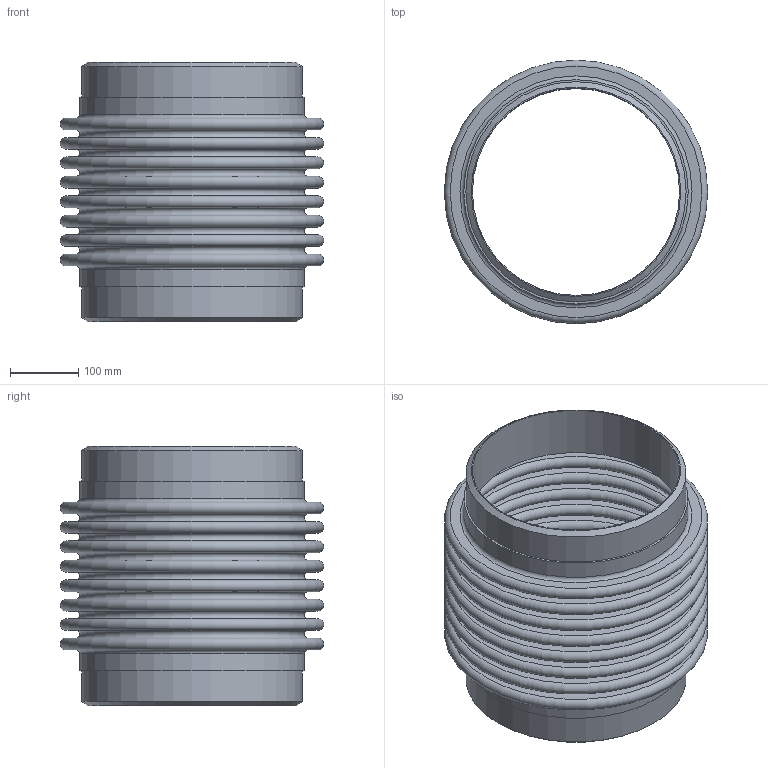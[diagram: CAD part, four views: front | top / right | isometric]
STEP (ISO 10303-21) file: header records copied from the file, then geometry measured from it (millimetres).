
FILE_DESCRIPTION(/* description */ ('EXPANSION JOINT,SINGLE, WELD ENDS,4 INCH NOMINAL'),/* implementation_level */ '2;1');
FILE_NAME(/* name */ 'US-12-300S- WELD-ENDS.stp',/* time_stamp */ '2026-07-28T11:10:50-05:00',/* author */ ('jorgef'),/* organization */ (''),/* preprocessor_version */ 'ST-DEVELOPER v20.1',/* originating_system */ 'Autodesk Inventor 2026',/* authorisation */ '');
FILE_SCHEMA (('AUTOMOTIVE_DESIGN { 1 0 10303 214 3 1 1 }'));
Length unit declared in the file: inch
Products named in the file (3): SINGLE STOCK  BELLOW WELDED ENDS  12- 300 PSIG; STOCK BELLOW - US-12-8-300S; PIPE- 12 -300 PSIG
Assembly tree (3 placements, depth 2):
  SINGLE STOCK  BELLOW WELDED ENDS  12- 300 PSIG
    STOCK BELLOW - US-12-8-300S
    PIPE- 12 -300 PSIG  x2
Bounding box: 387.35 x 387.35 x 381 mm (x, y, z)
Volume: 3552098 mm3; surface area: 1771043.4 mm2
Topology: 5 solids, 5 shells, 86 faces, 132 edges, 89 vertices
Faces by surface type: plane 42, torus 34, cylinder 8, cone 2
Full cylindrical faces by diameter (mm): 304.8 x2, 323.85 x4, 329.946 x2
Entity records: 2033 total; most frequent: DIRECTION 413, CARTESIAN_POINT 293, ORIENTED_EDGE 246, AXIS2_PLACEMENT_3D 203, EDGE_CURVE 123, EDGE_LOOP 121, CIRCLE 116, VERTEX_POINT 82
